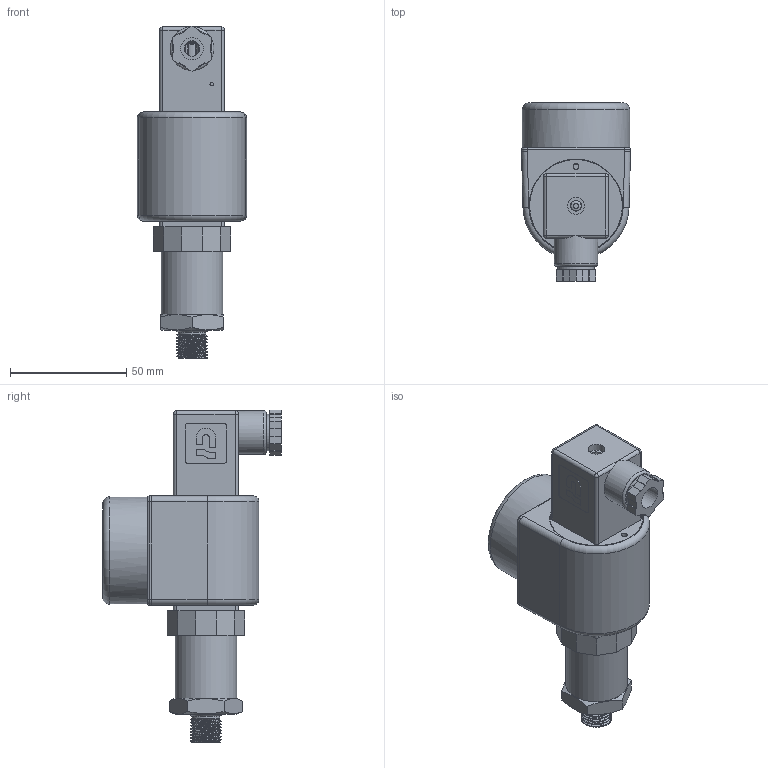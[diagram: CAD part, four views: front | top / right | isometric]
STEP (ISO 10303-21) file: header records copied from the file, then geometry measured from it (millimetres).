
FILE_DESCRIPTION(/* description */ (''),/* implementation_level */ '2;1');
FILE_NAME(/* name */ 'I:/New Datasheets/STEP Models/Pending models/Pi600DD LP G14.step',/* time_stamp */ '2020-01-14T15:27:03+00:00',/* author */ (''),/* organization */ (''),/* preprocessor_version */ 'ST-DEVELOPER v18',/* originating_system */ 'Autodesk Translation Framework v8.12.0.6',/* authorisation */ '');
FILE_SCHEMA (('AUTOMOTIVE_DESIGN { 1 0 10303 214 3 1 1 }'));
Length unit declared in the file: millimetre
Products named in the file (2): Pi600DD; Pi600DD LP
Assembly tree (1 placements, depth 2):
  Pi600DD
    Pi600DD LP
Bounding box: 47 x 77 x 143.05 mm (x, y, z)
Volume: 111719.5 mm3; surface area: 87021.1 mm2
Topology: 7 solids, 19 shells, 4297 faces, 11518 edges, 7334 vertices
Faces by surface type: plane 2604, cylinder 1024, bspline 292, torus 173, sphere 113, cone 91
Full cylindrical faces by diameter (mm): 0.5 x16, 0.583 x16, 0.6 x4, 1 x20, 1.2 x24, 1.4 x27, 1.5 x9, 1.562 x1, 1.6 x4, 1.7 x1, 2 x4, 2.06 x1, 2.262 x1, 2.3 x1, 2.5 x3, 2.9 x1, 3 x10, 3.1 x2, 3.2 x5, 3.25 x2, 3.3 x1, 3.475 x1, 4 x7, 4.2 x1, 4.4 x4, 4.6 x1, 5 x9, 5.2 x1, 5.5 x1, 5.527 x1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
Entity records: 143185 total; most frequent: CARTESIAN_POINT 35798, ORIENTED_EDGE 22866, DIRECTION 21454, EDGE_CURVE 11433, LINE 7744, VECTOR 7744, VERTEX_POINT 7357, AXIS2_PLACEMENT_3D 6855
